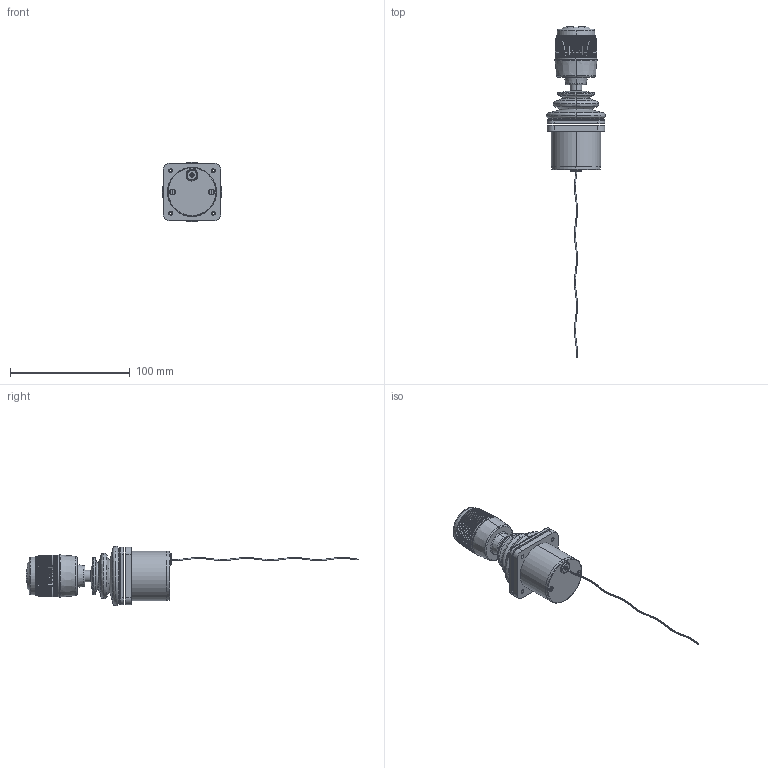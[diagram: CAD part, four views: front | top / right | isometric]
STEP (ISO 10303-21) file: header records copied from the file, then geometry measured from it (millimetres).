
FILE_DESCRIPTION (( 'STEP AP214' ), '1' );
FILE_NAME ('TRY10-551A111.STEP', '2013-07-05T10:37:49', ( '' ), ( '' ), 'SwSTEP 2.0', 'SolidWorks 2012', '' );
FILE_SCHEMA (( 'AUTOMOTIVE_DESIGN' ));
Length unit declared in the file: millimetre
Products named in the file (3): Abdeckrahmen_1; TRY10_551A115_1; TRY10-551A111
Assembly tree (2 placements, depth 2):
  TRY10-551A111
    TRY10_551A115_1
    Abdeckrahmen_1
Bounding box: 49.7 x 277.77 x 49.7 mm (x, y, z)
Volume: 3413.6 mm3; surface area: 27334.9 mm2
Topology: 1 solids, 10 shells, 439 faces, 1316 edges, 868 vertices
Faces by surface type: plane 297, cylinder 72, bspline 44, cone 26
Entity records: 23226 total; most frequent: CARTESIAN_POINT 6884, ORIENTED_EDGE 2445, DIRECTION 2206, EDGE_CURVE 1315, VERTEX_POINT 870, LINE 748, VECTOR 748, AXIS2_PLACEMENT_3D 729
